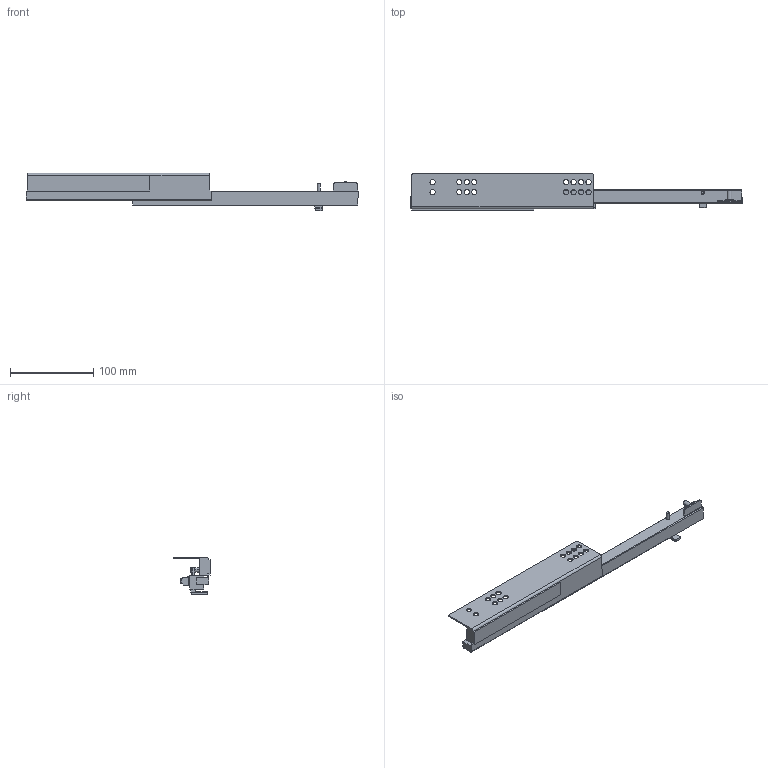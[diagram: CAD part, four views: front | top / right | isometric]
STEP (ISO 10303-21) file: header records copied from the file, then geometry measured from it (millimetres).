
FILE_DESCRIPTION (( 'STEP AP203' ), '1' );
FILE_NAME ('GG10300H-L-DTC3D-open.STEP', '2021-07-02T00:54:35', ( 'df' ), ( 'Microsoft' ), 'SwSTEP 2.0', 'SolidWorks 2018', '' );
FILE_SCHEMA (( 'CONFIG_CONTROL_DESIGN' ));
Length unit declared in the file: millimetre
Products named in the file (1): GG10300H-L-DTC3D-open
Bounding box: 398.1 x 44.1 x 44.73 mm (x, y, z)
Volume: 156979.1 mm3; surface area: 55942.5 mm2
Topology: 1 solids, 1 shells, 164 faces, 459 edges, 297 vertices
Faces by surface type: cylinder 80, plane 76, bspline 4, sphere 2, cone 2
Entity records: 5482 total; most frequent: CARTESIAN_POINT 1085, ORIENTED_EDGE 914, DIRECTION 899, EDGE_CURVE 457, AXIS2_PLACEMENT_3D 311, VERTEX_POINT 297, LINE 277, VECTOR 277
